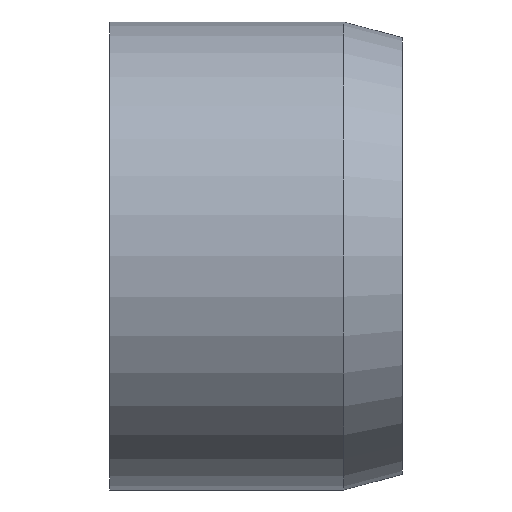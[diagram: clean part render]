
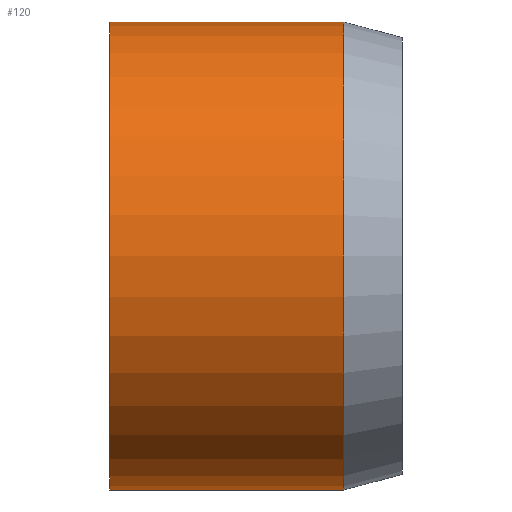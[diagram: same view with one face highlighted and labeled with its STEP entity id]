
A CAD part, front view. The second image highlights one B-rep face of the part: STEP entity #120.
In plain terms, the highlighted cylindrical face has radius 8 mm (diameter 16 mm), a full revolution.
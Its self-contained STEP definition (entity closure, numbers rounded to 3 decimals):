
#20=LINE('',#229,#23);
#23=VECTOR('',#197,8.);
#26=CYLINDRICAL_SURFACE('',#157,8.);
#32=FACE_OUTER_BOUND('',#41,.T.);
#41=EDGE_LOOP('',(#97,#98,#99,#100));
#49=CIRCLE('',#151,8.);
#53=CIRCLE('',#158,8.);
#59=VERTEX_POINT('',#217);
#62=VERTEX_POINT('',#227);
#70=EDGE_CURVE('',#59,#59,#49,.T.);
#74=EDGE_CURVE('',#62,#62,#53,.T.);
#75=EDGE_CURVE('',#62,#59,#20,.T.);
#97=ORIENTED_EDGE('',*,*,#74,.F.);
#98=ORIENTED_EDGE('',*,*,#75,.T.);
#99=ORIENTED_EDGE('',*,*,#70,.T.);
#100=ORIENTED_EDGE('',*,*,#75,.F.);
#120=ADVANCED_FACE('',(#32),#26,.T.);
#151=AXIS2_PLACEMENT_3D('',#218,#181,#182);
#157=AXIS2_PLACEMENT_3D('',#226,#193,#194);
#158=AXIS2_PLACEMENT_3D('',#228,#195,#196);
#181=DIRECTION('center_axis',(1.,0.,0.));
#182=DIRECTION('ref_axis',(0.,0.,-1.));
#193=DIRECTION('center_axis',(1.,0.,0.));
#194=DIRECTION('ref_axis',(0.,1.,0.));
#195=DIRECTION('center_axis',(1.,0.,0.));
#196=DIRECTION('ref_axis',(0.,0.,-1.));
#197=DIRECTION('',(-1.,0.,0.));
#217=CARTESIAN_POINT('',(0.,-8.,0.));
#218=CARTESIAN_POINT('Origin',(0.,0.,0.));
#226=CARTESIAN_POINT('Origin',(4.,0.,0.));
#227=CARTESIAN_POINT('',(8.,-8.,0.));
#228=CARTESIAN_POINT('Origin',(8.,0.,0.));
#229=CARTESIAN_POINT('',(4.,-8.,0.));
